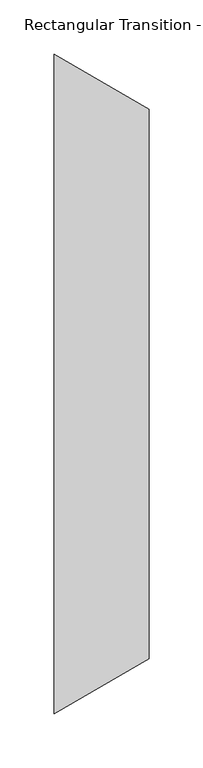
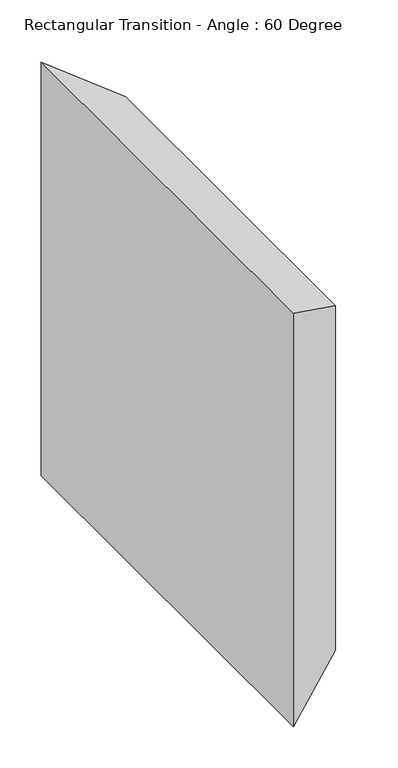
"""IFC4 building model written with IfcOpenShell, lengths in millimetres: duct fitting geometry, Rectangular Transition - Angle : 60 Degree."""

from ifc_helpers import new_model, si_unit, origin, place, context, project, spatial, faceted_brep, source, transform, mapped, element, save


def rectangular_transition_angle_60_degree_c552a1ca(model_context):
    return source(origin(), model_context, "Body", "Brep", [
        faceted_brep([(87.988181, 254.0, 254.0), (87.988181, -254.0, 254.0), (87.988181, -254.0, -254.0), (87.988181, 254.0, -254.0), (0.0, 304.8, 304.8), (0.0, 304.8, -304.8), (0.0, -304.8, -304.8), (0.0, -304.8, 304.8)], [[[0, 1, 2, 3]], [[4, 5, 6, 7]], [[4, 0, 3, 5]], [[5, 3, 2, 6]], [[6, 2, 1, 7]], [[7, 1, 0, 4]]]),
    ])


if __name__ == "__main__":
    model = new_model("IFC4")
    model_context = context("Model", 3, world=origin())
    ifc_project = project(units=[si_unit("LENGTHUNIT", "METRE", prefix="MILLI")], contexts=[model_context])
    site = spatial("IfcSite", under=ifc_project)
    building = spatial("IfcBuilding", under=site)
    placement = place(None, origin())
    rectangular_transition_angle_60_degree_shape = rectangular_transition_angle_60_degree_c552a1ca(model_context)
    element("IfcDuctFitting", 1, ObjectType="Rectangular Transition - Angle : 60 Degree", at=placement, inside=building, context=model_context, shape_type="MappedRepresentation", body=[
        mapped(rectangular_transition_angle_60_degree_shape, transform((0.0, 0.0, 0.0), x_axis=(1.0, 0.0, 0.0), y_axis=(0.0, 1.0, 0.0), z_axis=(0.0, 0.0, 1.0))),
    ])
    save(model, "model.ifc")
